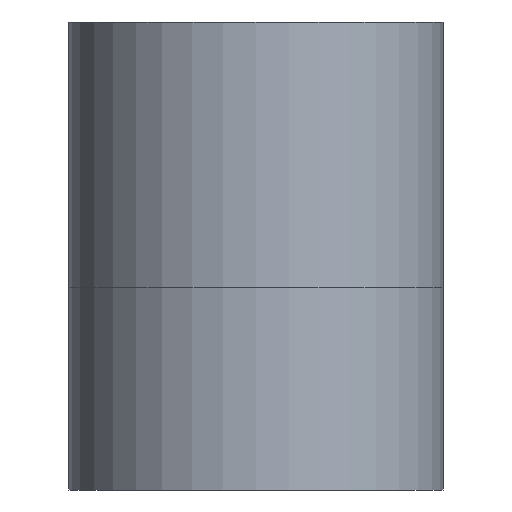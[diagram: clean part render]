
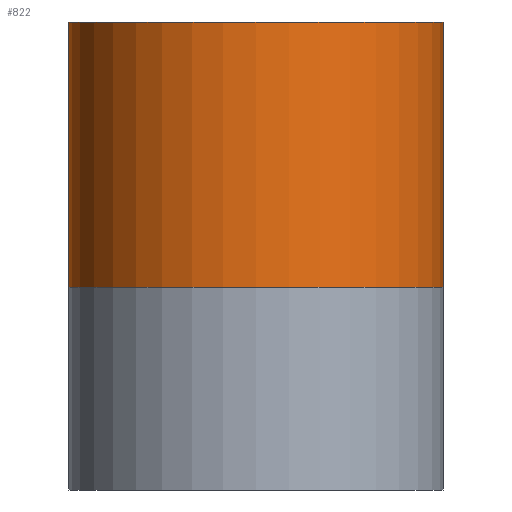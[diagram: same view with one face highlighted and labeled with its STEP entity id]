
A CAD part, left-side view. The second image highlights one B-rep face of the part: STEP entity #822.
In plain terms, the highlighted cylindrical face has radius 6 mm (diameter 12 mm), a partial arc.
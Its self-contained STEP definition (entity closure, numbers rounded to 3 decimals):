
#565=CARTESIAN_POINT('',(-21.5,-6.,-4.25));
#566=VERTEX_POINT('',#565);
#573=CARTESIAN_POINT('',(-21.5,6.,-4.25));
#574=VERTEX_POINT('',#573);
#575=CARTESIAN_POINT('',(-21.5,0.,-4.25));
#576=DIRECTION('',(0.0,0.0,1.0));
#577=DIRECTION('',(0.0,1.0,0.0));
#578=AXIS2_PLACEMENT_3D('',#575,#576,#577);
#579=CIRCLE('',#578,6.);
#580=EDGE_CURVE('',#574,#566,#579,.T.);
#742=CARTESIAN_POINT('',(-21.5,-6.,4.25));
#743=VERTEX_POINT('',#742);
#759=CARTESIAN_POINT('',(-21.5,6.,4.25));
#760=VERTEX_POINT('',#759);
#767=CARTESIAN_POINT('',(-21.5,0.,4.25));
#768=DIRECTION('',(0.0,0.0,-1.0));
#769=DIRECTION('',(0.0,1.0,0.0));
#770=AXIS2_PLACEMENT_3D('',#767,#768,#769);
#771=CIRCLE('',#770,6.);
#772=EDGE_CURVE('',#743,#760,#771,.T.);
#789=CARTESIAN_POINT('',(-21.5,-6.,-4.25));
#790=DIRECTION('',(0.0,0.0,1.0));
#791=VECTOR('',#790,8.5);
#792=LINE('',#789,#791);
#793=EDGE_CURVE('',#566,#743,#792,.T.);
#806=CARTESIAN_POINT('',(-21.5,0.,0.0));
#807=DIRECTION('',(0.0,0.0,1.0));
#808=DIRECTION('',(0.0,1.0,0.0));
#809=AXIS2_PLACEMENT_3D('',#806,#807,#808);
#810=CYLINDRICAL_SURFACE('',#809,6.);
#811=ORIENTED_EDGE('',*,*,#772,.T.);
#812=CARTESIAN_POINT('',(-21.5,6.,-4.25));
#813=DIRECTION('',(0.0,0.0,1.0));
#814=VECTOR('',#813,8.5);
#815=LINE('',#812,#814);
#816=EDGE_CURVE('',#574,#760,#815,.T.);
#817=ORIENTED_EDGE('',*,*,#816,.F.);
#818=ORIENTED_EDGE('',*,*,#580,.T.);
#819=ORIENTED_EDGE('',*,*,#793,.T.);
#820=EDGE_LOOP('',(#811,#817,#818,#819));
#821=FACE_OUTER_BOUND('',#820,.T.);
#822=ADVANCED_FACE('',(#821),#810,.T.);
